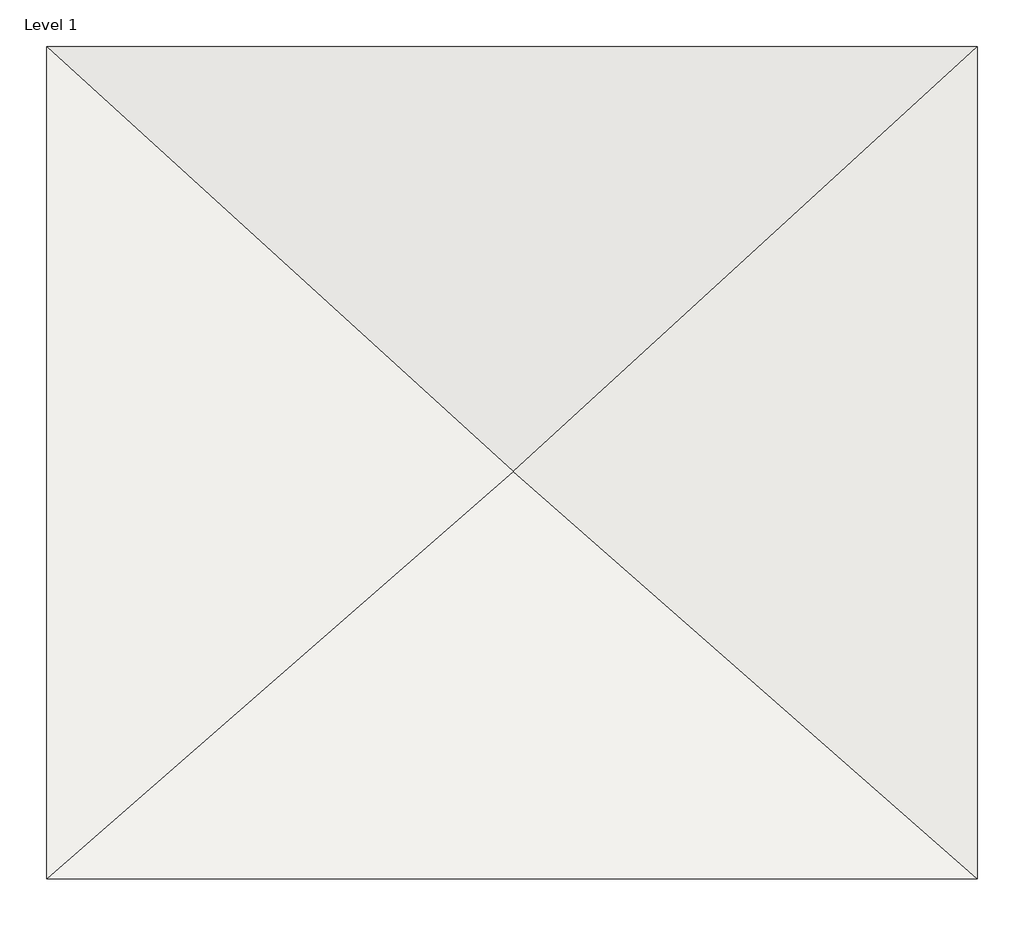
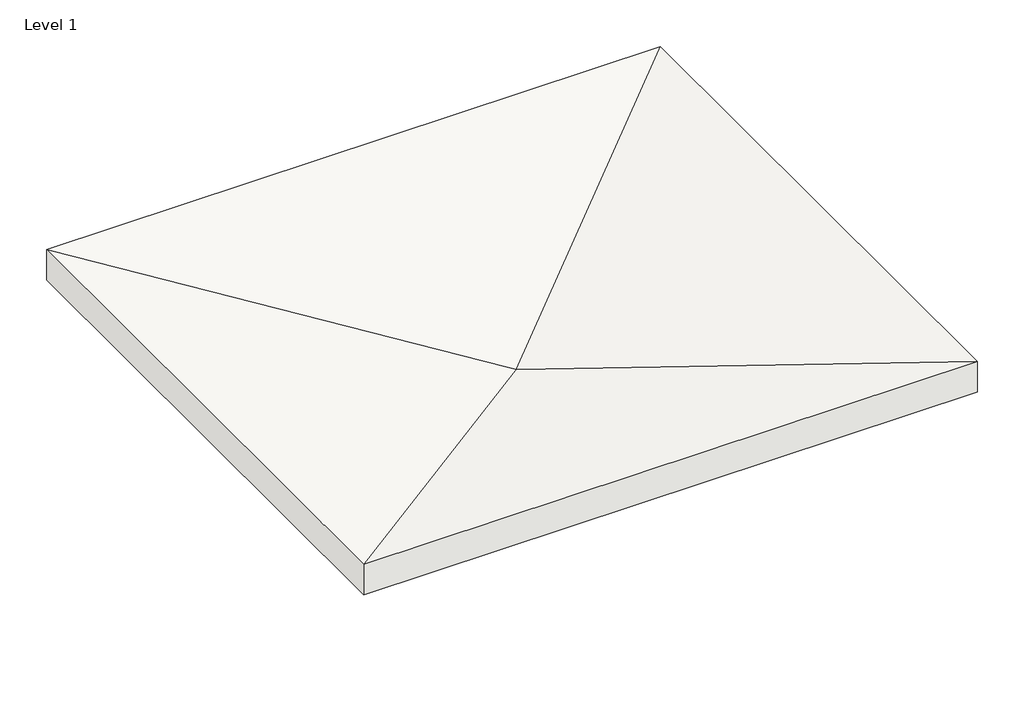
# One storey: 1 slab.
"""IFC4 building model written with IfcOpenShell, lengths in millimetres."""

from ifc_helpers import new_model, si_unit, origin, place, context, project, spatial, faceted_brep, element, save

model = new_model("IFC4")

# Units and contexts
model_context = context("Model", 3, world=origin())
ifc_project = project(units=[si_unit("LENGTHUNIT", "METRE", prefix="MILLI")], contexts=[model_context])

# Site, building, storey
site = spatial("IfcSite", under=ifc_project)
building = spatial("IfcBuilding", under=site)
storey = spatial("IfcBuildingStorey", under=building, Name="Level 1", Elevation=0.0)

# Slab
placement = place(None, origin())
element("IfcSlab", 1, ObjectType="Generic - 12\"", at=placement, inside=storey, context=model_context, shape_type="Brep", body=[
    faceted_brep([(15502.4251221, 8275.1133669, -304.8), (15502.4251221, 8275.1133669, 0.0), (15502.4251221, 3093.5133669, 0.0), (15502.4251221, 3093.5133669, -304.8), (9711.2251221, 3093.5133669, 0.0), (9711.2251221, 3093.5133669, -304.8), (9711.2251221, 8275.1133669, 0.0), (9711.2251221, 8275.1133669, -304.8), (12614.8188764, 5630.7690549, -609.6), (12614.8188764, 5630.7690549, -914.4)], [[[0, 1, 2, 3]], [[3, 2, 4, 5]], [[5, 4, 6, 7]], [[7, 6, 1, 0]], [[6, 4, 8]], [[7, 9, 5]], [[2, 1, 8]], [[4, 2, 8]], [[6, 8, 1]], [[3, 9, 0]], [[5, 9, 3]], [[7, 0, 9]]]),
])

save(model, "model.ifc")
